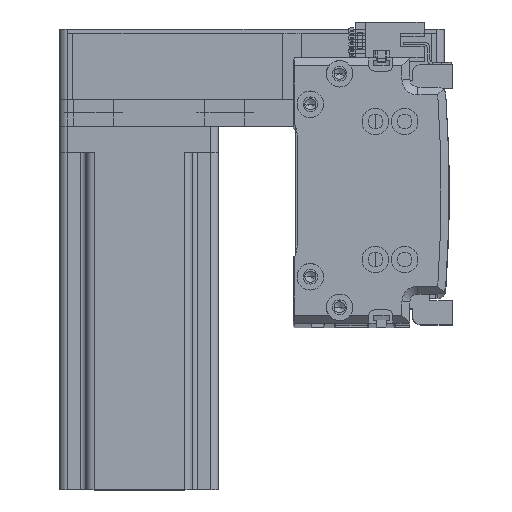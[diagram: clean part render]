
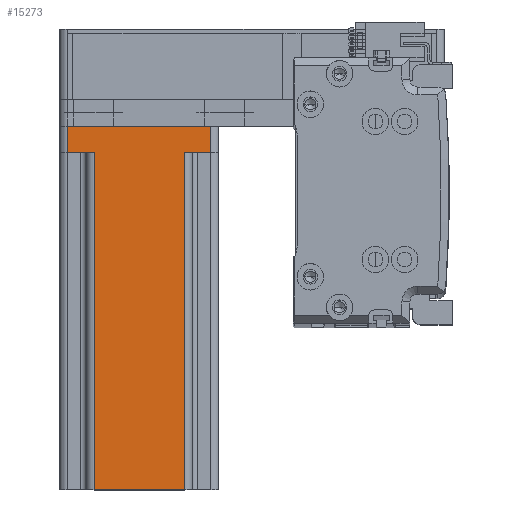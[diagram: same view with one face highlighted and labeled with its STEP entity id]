
A CAD part, top view. The second image highlights one B-rep face of the part: STEP entity #15273.
In plain terms, the highlighted planar face has unit normal (0, 0, 1) as drawn and (0, -1, 0) by its records, which use the part's own axes.
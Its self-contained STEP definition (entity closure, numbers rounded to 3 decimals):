
#837 = VECTOR ( 'NONE', #7737, 1000. ) ;
#1441 = DIRECTION ( 'NONE',  ( -1., 0., 0. ) ) ;
#2465 = DIRECTION ( 'NONE',  ( 0., 0., -1. ) ) ;
#2598 = AXIS2_PLACEMENT_3D ( 'NONE', #41310, #16695, #45476 ) ;
#3910 = ORIENTED_EDGE ( 'NONE', *, *, #42430, .T. ) ;
#6170 = VECTOR ( 'NONE', #2465, 1000. ) ;
#7560 = CARTESIAN_POINT ( 'NONE',  ( 30., -30., 0. ) ) ;
#7737 = DIRECTION ( 'NONE',  ( 0., 0., -1. ) ) ;
#9817 = DIRECTION ( 'NONE',  ( 1., 0., 0. ) ) ;
#10669 = VERTEX_POINT ( 'NONE', #46002 ) ;
#10864 = EDGE_CURVE ( 'NONE', #12900, #51021, #39979, .T. ) ;
#11488 = CARTESIAN_POINT ( 'NONE',  ( 27., -30., 137. ) ) ;
#12900 = VERTEX_POINT ( 'NONE', #18830 ) ;
#12967 = VERTEX_POINT ( 'NONE', #23346 ) ;
#14460 = CARTESIAN_POINT ( 'NONE',  ( -17., -30., 137. ) ) ;
#14530 = CARTESIAN_POINT ( 'NONE',  ( 17., -30., 137. ) ) ;
#14837 = ORIENTED_EDGE ( 'NONE', *, *, #17826, .F. ) ;
#15162 = CARTESIAN_POINT ( 'NONE',  ( -27., -30., 0. ) ) ;
#15273 = ADVANCED_FACE ( 'NONE', ( #34658 ), #52427, .F. ) ;
#15620 = DIRECTION ( 'NONE',  ( 0., 0., 1. ) ) ;
#16064 = ORIENTED_EDGE ( 'NONE', *, *, #37925, .T. ) ;
#16243 = VERTEX_POINT ( 'NONE', #14460 ) ;
#16695 = DIRECTION ( 'NONE',  ( 0., 1., 0. ) ) ;
#17052 = VECTOR ( 'NONE', #9817, 1000. ) ;
#17127 = LINE ( 'NONE', #43675, #6170 ) ;
#17826 = EDGE_CURVE ( 'NONE', #16243, #51021, #38913, .T. ) ;
#18574 = DIRECTION ( 'NONE',  ( 0., 0., 1. ) ) ;
#18830 = CARTESIAN_POINT ( 'NONE',  ( 17., -30., 10. ) ) ;
#20050 = EDGE_CURVE ( 'NONE', #47272, #12900, #48760, .T. ) ;
#21409 = LINE ( 'NONE', #25712, #32347 ) ;
#21956 = CARTESIAN_POINT ( 'NONE',  ( 20., -30., 10. ) ) ;
#23346 = CARTESIAN_POINT ( 'NONE',  ( -17., -30., 10. ) ) ;
#25712 = CARTESIAN_POINT ( 'NONE',  ( -20., -30., 10. ) ) ;
#26802 = VECTOR ( 'NONE', #15620, 1000. ) ;
#26852 = VECTOR ( 'NONE', #1441, 1000. ) ;
#27195 = VECTOR ( 'NONE', #40497, 1000. ) ;
#27739 = CARTESIAN_POINT ( 'NONE',  ( 17., -30., 137. ) ) ;
#28108 = LINE ( 'NONE', #11488, #26802 ) ;
#28232 = CARTESIAN_POINT ( 'NONE',  ( -27., -30., 137. ) ) ;
#31566 = VERTEX_POINT ( 'NONE', #47432 ) ;
#32347 = VECTOR ( 'NONE', #50304, 1000. ) ;
#32520 = ORIENTED_EDGE ( 'NONE', *, *, #44245, .F. ) ;
#33913 = ORIENTED_EDGE ( 'NONE', *, *, #20050, .T. ) ;
#34228 = ORIENTED_EDGE ( 'NONE', *, *, #40313, .T. ) ;
#34658 = FACE_OUTER_BOUND ( 'NONE', #45334, .T. ) ;
#34772 = VECTOR ( 'NONE', #18574, 1000. ) ;
#37925 = EDGE_CURVE ( 'NONE', #41862, #31566, #38139, .T. ) ;
#38139 = LINE ( 'NONE', #7560, #27195 ) ;
#38561 = CARTESIAN_POINT ( 'NONE',  ( 30., -30., 137. ) ) ;
#38913 = LINE ( 'NONE', #38561, #17052 ) ;
#38983 = ORIENTED_EDGE ( 'NONE', *, *, #44024, .T. ) ;
#39979 = LINE ( 'NONE', #14530, #34772 ) ;
#40313 = EDGE_CURVE ( 'NONE', #31566, #47272, #28108, .T. ) ;
#40497 = DIRECTION ( 'NONE',  ( 1., 0., 0. ) ) ;
#41310 = CARTESIAN_POINT ( 'NONE',  ( 30., -30., 137. ) ) ;
#41862 = VERTEX_POINT ( 'NONE', #15162 ) ;
#42430 = EDGE_CURVE ( 'NONE', #16243, #12967, #17127, .T. ) ;
#42463 = CARTESIAN_POINT ( 'NONE',  ( 27., -30., 10. ) ) ;
#42760 = ORIENTED_EDGE ( 'NONE', *, *, #10864, .T. ) ;
#43675 = CARTESIAN_POINT ( 'NONE',  ( -17., -30., 137. ) ) ;
#44024 = EDGE_CURVE ( 'NONE', #10669, #41862, #44636, .T. ) ;
#44245 = EDGE_CURVE ( 'NONE', #10669, #12967, #21409, .T. ) ;
#44636 = LINE ( 'NONE', #28232, #837 ) ;
#45334 = EDGE_LOOP ( 'NONE', ( #14837, #3910, #32520, #38983, #16064, #34228, #33913, #42760 ) ) ;
#45476 = DIRECTION ( 'NONE',  ( -1., 0., 0. ) ) ;
#46002 = CARTESIAN_POINT ( 'NONE',  ( -27., -30., 10. ) ) ;
#47272 = VERTEX_POINT ( 'NONE', #42463 ) ;
#47432 = CARTESIAN_POINT ( 'NONE',  ( 27., -30., 0. ) ) ;
#48760 = LINE ( 'NONE', #21956, #26852 ) ;
#50304 = DIRECTION ( 'NONE',  ( 1., 0., 0. ) ) ;
#51021 = VERTEX_POINT ( 'NONE', #27739 ) ;
#52427 = PLANE ( 'NONE',  #2598 ) ;
